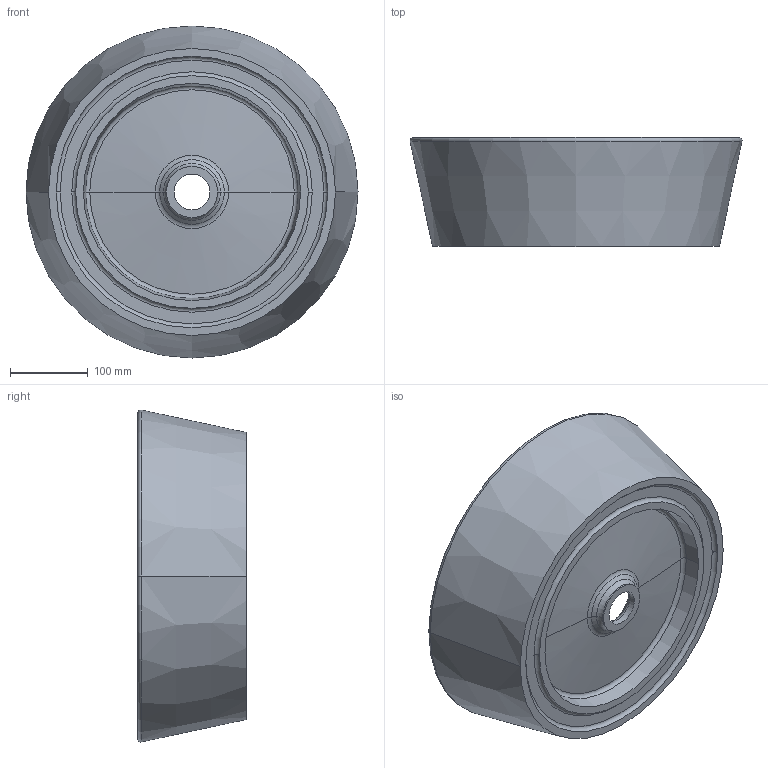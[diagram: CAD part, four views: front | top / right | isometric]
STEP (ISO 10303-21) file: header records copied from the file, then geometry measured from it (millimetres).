
FILE_DESCRIPTION (( 'STEP AP203' ), '1' );
FILE_NAME ('FORMA43 LAVABO.STEP', '2018-11-19T14:20:10', ( '' ), ( '' ), 'SwSTEP 2.0', 'SolidWorks 2019', '' );
FILE_SCHEMA (( 'CONFIG_CONTROL_DESIGN' ));
Length unit declared in the file: millimetre
Products named in the file (1): FORMA43 LAVABO
Bounding box: 428.09 x 140 x 428.09 mm (x, y, z)
Volume: 5722723.5 mm3; surface area: 518409.2 mm2
Topology: 1 solids, 1 shells, 43 faces, 86 edges, 48 vertices
Faces by surface type: torus 20, cone 16, plane 5, cylinder 2
Entity records: 1205 total; most frequent: DIRECTION 242, CARTESIAN_POINT 178, ORIENTED_EDGE 172, AXIS2_PLACEMENT_3D 112, EDGE_CURVE 86, CIRCLE 68, EDGE_LOOP 48, VERTEX_POINT 48
